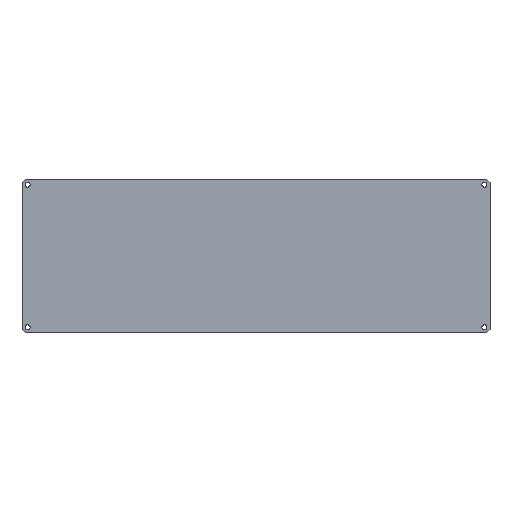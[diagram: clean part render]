
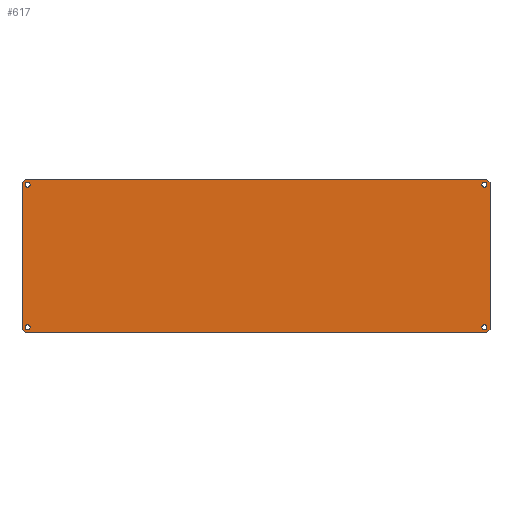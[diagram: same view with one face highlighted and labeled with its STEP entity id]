
A CAD part, top view. The second image highlights one B-rep face of the part: STEP entity #617.
In plain terms, the highlighted planar face has unit normal (0, 0, 1).
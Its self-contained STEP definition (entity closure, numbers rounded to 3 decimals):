
#2 = EDGE_CURVE ( 'NONE', #176, #169, #252, .T. ) ;
#4 = VECTOR ( 'NONE', #411, 1000. ) ;
#9 = VECTOR ( 'NONE', #533, 1000. ) ;
#11 = AXIS2_PLACEMENT_3D ( 'NONE', #316, #317, #320 ) ;
#12 = VECTOR ( 'NONE', #560, 1000. ) ;
#13 = DIRECTION ( 'NONE',  ( 0., 0., 1. ) ) ;
#15 = EDGE_CURVE ( 'NONE', #180, #181, #374, .T. ) ;
#17 = VECTOR ( 'NONE', #440, 1000. ) ;
#20 = EDGE_CURVE ( 'NONE', #521, #202, #545, .T. ) ;
#29 = EDGE_CURVE ( 'NONE', #69, #661, #313, .T. ) ;
#30 = CIRCLE ( 'NONE', #664, 4. ) ;
#32 = EDGE_CURVE ( 'NONE', #181, #180, #465, .T. ) ;
#34 = LINE ( 'NONE', #410, #4 ) ;
#67 = ORIENTED_EDGE ( 'NONE', *, *, #215, .F. ) ;
#69 = VERTEX_POINT ( 'NONE', #375 ) ;
#74 = EDGE_LOOP ( 'NONE', ( #135, #136 ) ) ;
#94 = AXIS2_PLACEMENT_3D ( 'NONE', #453, #454, #455 ) ;
#131 = ORIENTED_EDGE ( 'NONE', *, *, #603, .F. ) ;
#132 = ORIENTED_EDGE ( 'NONE', *, *, #382, .F. ) ;
#134 = ORIENTED_EDGE ( 'NONE', *, *, #20, .F. ) ;
#135 = ORIENTED_EDGE ( 'NONE', *, *, #32, .F. ) ;
#136 = ORIENTED_EDGE ( 'NONE', *, *, #15, .F. ) ;
#137 = ORIENTED_EDGE ( 'NONE', *, *, #319, .F. ) ;
#138 = ORIENTED_EDGE ( 'NONE', *, *, #397, .T. ) ;
#139 = ORIENTED_EDGE ( 'NONE', *, *, #611, .T. ) ;
#141 = ORIENTED_EDGE ( 'NONE', *, *, #204, .T. ) ;
#142 = ORIENTED_EDGE ( 'NONE', *, *, #2, .T. ) ;
#143 = ORIENTED_EDGE ( 'NONE', *, *, #284, .T. ) ;
#144 = ORIENTED_EDGE ( 'NONE', *, *, #654, .T. ) ;
#146 = ORIENTED_EDGE ( 'NONE', *, *, #29, .T. ) ;
#169 = VERTEX_POINT ( 'NONE', #384 ) ;
#176 = VERTEX_POINT ( 'NONE', #389 ) ;
#177 = VERTEX_POINT ( 'NONE', #390 ) ;
#179 = EDGE_LOOP ( 'NONE', ( #137, #644 ) ) ;
#180 = VERTEX_POINT ( 'NONE', #392 ) ;
#181 = VERTEX_POINT ( 'NONE', #394 ) ;
#184 = EDGE_LOOP ( 'NONE', ( #67, #131 ) ) ;
#185 = EDGE_LOOP ( 'NONE', ( #132, #134 ) ) ;
#190 = VERTEX_POINT ( 'NONE', #395 ) ;
#193 = VERTEX_POINT ( 'NONE', #396 ) ;
#198 = EDGE_LOOP ( 'NONE', ( #444, #138, #139, #141, #142, #143, #144, #146 ) ) ;
#200 = VERTEX_POINT ( 'NONE', #409 ) ;
#202 = VERTEX_POINT ( 'NONE', #368 ) ;
#204 = EDGE_CURVE ( 'NONE', #177, #176, #34, .T. ) ;
#205 = VERTEX_POINT ( 'NONE', #412 ) ;
#214 = VERTEX_POINT ( 'NONE', #416 ) ;
#215 = EDGE_CURVE ( 'NONE', #200, #193, #311, .T. ) ;
#234 = VERTEX_POINT ( 'NONE', #424 ) ;
#242 = VERTEX_POINT ( 'NONE', #428 ) ;
#252 = LINE ( 'NONE', #255, #632 ) ;
#254 = AXIS2_PLACEMENT_3D ( 'NONE', #551, #552, #553 ) ;
#255 = CARTESIAN_POINT ( 'NONE',  ( 378., -119., 0. ) ) ;
#256 = DIRECTION ( 'NONE',  ( 0., 1., 0. ) ) ;
#274 = CARTESIAN_POINT ( 'NONE',  ( 369., 115., 0. ) ) ;
#277 = DIRECTION ( 'NONE',  ( 0., 0., 1. ) ) ;
#279 = DIRECTION ( 'NONE',  ( -1., 0., 0. ) ) ;
#284 = EDGE_CURVE ( 'NONE', #169, #234, #438, .T. ) ;
#291 = CARTESIAN_POINT ( 'NONE',  ( 369., -115., 0. ) ) ;
#311 = CIRCLE ( 'NONE', #641, 4. ) ;
#313 = LINE ( 'NONE', #314, #584 ) ;
#314 = CARTESIAN_POINT ( 'NONE',  ( -378., 119., 0. ) ) ;
#315 = DIRECTION ( 'NONE',  ( -0.707, -0.707, 0. ) ) ;
#316 = CARTESIAN_POINT ( 'NONE',  ( 369., 115., 0. ) ) ;
#317 = DIRECTION ( 'NONE',  ( 0., 0., 1. ) ) ;
#319 = EDGE_CURVE ( 'NONE', #190, #242, #609, .T. ) ;
#320 = DIRECTION ( 'NONE',  ( -1., 0., 0. ) ) ;
#368 = CARTESIAN_POINT ( 'NONE',  ( 373., -115., 0. ) ) ;
#374 = CIRCLE ( 'NONE', #656, 4. ) ;
#375 = CARTESIAN_POINT ( 'NONE',  ( -373., 124., 0. ) ) ;
#382 = EDGE_CURVE ( 'NONE', #202, #521, #30, .T. ) ;
#384 = CARTESIAN_POINT ( 'NONE',  ( 378., 119., 0. ) ) ;
#389 = CARTESIAN_POINT ( 'NONE',  ( 378., -119., 0. ) ) ;
#390 = CARTESIAN_POINT ( 'NONE',  ( 373., -124., 0. ) ) ;
#392 = CARTESIAN_POINT ( 'NONE',  ( 365., 115., 0. ) ) ;
#394 = CARTESIAN_POINT ( 'NONE',  ( 373., 115., 0. ) ) ;
#395 = CARTESIAN_POINT ( 'NONE',  ( -365., 115., 0. ) ) ;
#396 = CARTESIAN_POINT ( 'NONE',  ( -373., -115., 0. ) ) ;
#397 = EDGE_CURVE ( 'NONE', #205, #214, #478, .T. ) ;
#409 = CARTESIAN_POINT ( 'NONE',  ( -365., -115., 0. ) ) ;
#410 = CARTESIAN_POINT ( 'NONE',  ( 373., -124., 0. ) ) ;
#411 = DIRECTION ( 'NONE',  ( 0.707, 0.707, 0. ) ) ;
#412 = CARTESIAN_POINT ( 'NONE',  ( -378., -119., 0. ) ) ;
#413 = AXIS2_PLACEMENT_3D ( 'NONE', #527, #529, #530 ) ;
#415 = AXIS2_PLACEMENT_3D ( 'NONE', #291, #13, #583 ) ;
#416 = CARTESIAN_POINT ( 'NONE',  ( -373., -124., 0. ) ) ;
#418 = CARTESIAN_POINT ( 'NONE',  ( -369., -115., 0. ) ) ;
#419 = DIRECTION ( 'NONE',  ( 0., 0., 1. ) ) ;
#420 = DIRECTION ( 'NONE',  ( -1., 0., 0. ) ) ;
#424 = CARTESIAN_POINT ( 'NONE',  ( 373., 124., 0. ) ) ;
#428 = CARTESIAN_POINT ( 'NONE',  ( -373., 115., 0. ) ) ;
#438 = LINE ( 'NONE', #439, #17 ) ;
#439 = CARTESIAN_POINT ( 'NONE',  ( 373., 124., 0. ) ) ;
#440 = DIRECTION ( 'NONE',  ( -0.707, 0.707, 0. ) ) ;
#444 = ORIENTED_EDGE ( 'NONE', *, *, #646, .T. ) ;
#453 = CARTESIAN_POINT ( 'NONE',  ( -369., 115., 0. ) ) ;
#454 = DIRECTION ( 'NONE',  ( 0., 0., 1. ) ) ;
#455 = DIRECTION ( 'NONE',  ( 1., 0., 0. ) ) ;
#462 = CARTESIAN_POINT ( 'NONE',  ( 369., -115., 0. ) ) ;
#464 = DIRECTION ( 'NONE',  ( 0., 0., 1. ) ) ;
#465 = CIRCLE ( 'NONE', #11, 4. ) ;
#468 = DIRECTION ( 'NONE',  ( 1., 0., 0. ) ) ;
#478 = LINE ( 'NONE', #479, #576 ) ;
#479 = CARTESIAN_POINT ( 'NONE',  ( -373., -124., 0. ) ) ;
#480 = DIRECTION ( 'NONE',  ( 0.707, -0.707, 0. ) ) ;
#503 = CARTESIAN_POINT ( 'NONE',  ( 365., -115., 0. ) ) ;
#521 = VERTEX_POINT ( 'NONE', #503 ) ;
#527 = CARTESIAN_POINT ( 'NONE',  ( -369., -115., 0. ) ) ;
#529 = DIRECTION ( 'NONE',  ( 0., 0., 1. ) ) ;
#530 = DIRECTION ( 'NONE',  ( -1., 0., 0. ) ) ;
#531 = LINE ( 'NONE', #532, #9 ) ;
#532 = CARTESIAN_POINT ( 'NONE',  ( -373., -124., 0. ) ) ;
#533 = DIRECTION ( 'NONE',  ( 1., 0., 0. ) ) ;
#540 = FACE_BOUND ( 'NONE', #184, .T. ) ;
#541 = FACE_BOUND ( 'NONE', #185, .T. ) ;
#542 = FACE_BOUND ( 'NONE', #74, .T. ) ;
#543 = FACE_BOUND ( 'NONE', #179, .T. ) ;
#544 = AXIS2_PLACEMENT_3D ( 'NONE', #548, #549, #550 ) ;
#545 = CIRCLE ( 'NONE', #415, 4. ) ;
#546 = FACE_OUTER_BOUND ( 'NONE', #198, .T. ) ;
#547 = PLANE ( 'NONE',  #544 ) ;
#548 = CARTESIAN_POINT ( 'NONE',  ( 0., 0., 0. ) ) ;
#549 = DIRECTION ( 'NONE',  ( 0., 0., -1. ) ) ;
#550 = DIRECTION ( 'NONE',  ( -1., 0., 0. ) ) ;
#551 = CARTESIAN_POINT ( 'NONE',  ( -369., 115., 0. ) ) ;
#552 = DIRECTION ( 'NONE',  ( 0., 0., 1. ) ) ;
#553 = DIRECTION ( 'NONE',  ( 1., 0., 0. ) ) ;
#558 = LINE ( 'NONE', #559, #12 ) ;
#559 = CARTESIAN_POINT ( 'NONE',  ( -378., -119., 0. ) ) ;
#560 = DIRECTION ( 'NONE',  ( 0., -1., 0. ) ) ;
#564 = LINE ( 'NONE', #565, #650 ) ;
#565 = CARTESIAN_POINT ( 'NONE',  ( -373., 124., 0. ) ) ;
#566 = DIRECTION ( 'NONE',  ( -1., 0., 0. ) ) ;
#571 = CARTESIAN_POINT ( 'NONE',  ( -378., 119., 0. ) ) ;
#576 = VECTOR ( 'NONE', #480, 1000. ) ;
#583 = DIRECTION ( 'NONE',  ( 1., 0., 0. ) ) ;
#584 = VECTOR ( 'NONE', #315, 1000. ) ;
#603 = EDGE_CURVE ( 'NONE', #193, #200, #638, .T. ) ;
#609 = CIRCLE ( 'NONE', #94, 4. ) ;
#611 = EDGE_CURVE ( 'NONE', #214, #177, #531, .T. ) ;
#617 = ADVANCED_FACE ( 'NONE', ( #540, #541, #542, #543, #546 ), #547, .F. ) ;
#629 = EDGE_CURVE ( 'NONE', #242, #190, #663, .T. ) ;
#632 = VECTOR ( 'NONE', #256, 1000. ) ;
#638 = CIRCLE ( 'NONE', #413, 4. ) ;
#641 = AXIS2_PLACEMENT_3D ( 'NONE', #418, #419, #420 ) ;
#644 = ORIENTED_EDGE ( 'NONE', *, *, #629, .F. ) ;
#646 = EDGE_CURVE ( 'NONE', #661, #205, #558, .T. ) ;
#650 = VECTOR ( 'NONE', #566, 1000. ) ;
#654 = EDGE_CURVE ( 'NONE', #234, #69, #564, .T. ) ;
#656 = AXIS2_PLACEMENT_3D ( 'NONE', #274, #277, #279 ) ;
#661 = VERTEX_POINT ( 'NONE', #571 ) ;
#663 = CIRCLE ( 'NONE', #254, 4. ) ;
#664 = AXIS2_PLACEMENT_3D ( 'NONE', #462, #464, #468 ) ;
